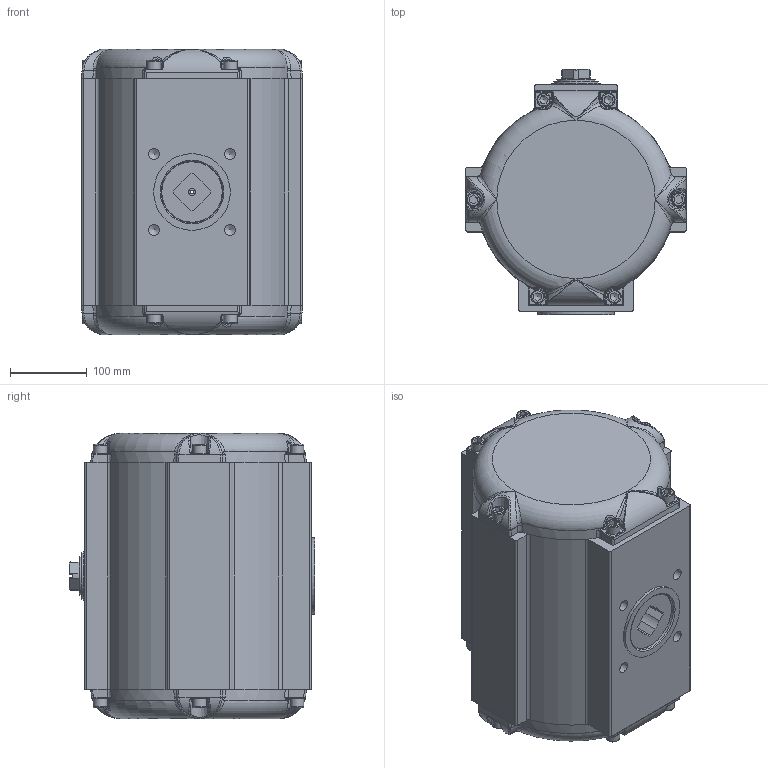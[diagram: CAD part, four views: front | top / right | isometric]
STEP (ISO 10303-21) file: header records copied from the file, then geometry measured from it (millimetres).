
FILE_DESCRIPTION(/* description */ (''),/* implementation_level */ '2;1');
FILE_NAME(/* name */ 'C:\Users\war\Desktop\BR03C_SAD_42.stp',/* time_stamp */ '2021-05-05T10:14:07+02:00',/* author */ ('war'),/* organization */ (''),/* preprocessor_version */ 'ST-DEVELOPER v18.1',/* originating_system */ 'Autodesk Inventor 2021',/* authorisation */ '');
FILE_SCHEMA (('AUTOMOTIVE_DESIGN { 1 0 10303 214 3 1 1 }'));
Products named in the file (1): ENG-077295_Shrinkwrap_1
Bounding box: 288 x 320 x 372.2 mm (x, y, z)
Volume: 12177621.7 mm3; surface area: 1507777.7 mm2
Topology: 1 solids, 1 shells, 3898 faces, 9669 edges, 5866 vertices
Faces by surface type: bspline 1185, plane 1034, cylinder 784, torus 553, cone 202, sphere 140
Full cylindrical faces by diameter (mm): 2.5 x2, 4.134 x8, 4.917 x1, 6 x2, 8 x2, 8.376 x2, 10 x2, 10.106 x1, 11.445 x2, 12 x2, 14.376 x4, 18 x12, 30 x4, 30.3 x8, 33 x4, 34 x6, 34.4 x4, 37 x1, 45 x1, 46 x1, 46.3 x1, 49.8 x3, 50 x2, 50.1 x1, 63 x1, 64 x1, 75 x2, 78 x1, 79.8 x3, 80 x2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
Entity records: 150771 total; most frequent: CARTESIAN_POINT 61857, ORIENTED_EDGE 19158, DIRECTION 15404, EDGE_CURVE 9579, AXIS2_PLACEMENT_3D 6003, VERTEX_POINT 5866, EDGE_LOOP 4107, STYLED_ITEM 3899
